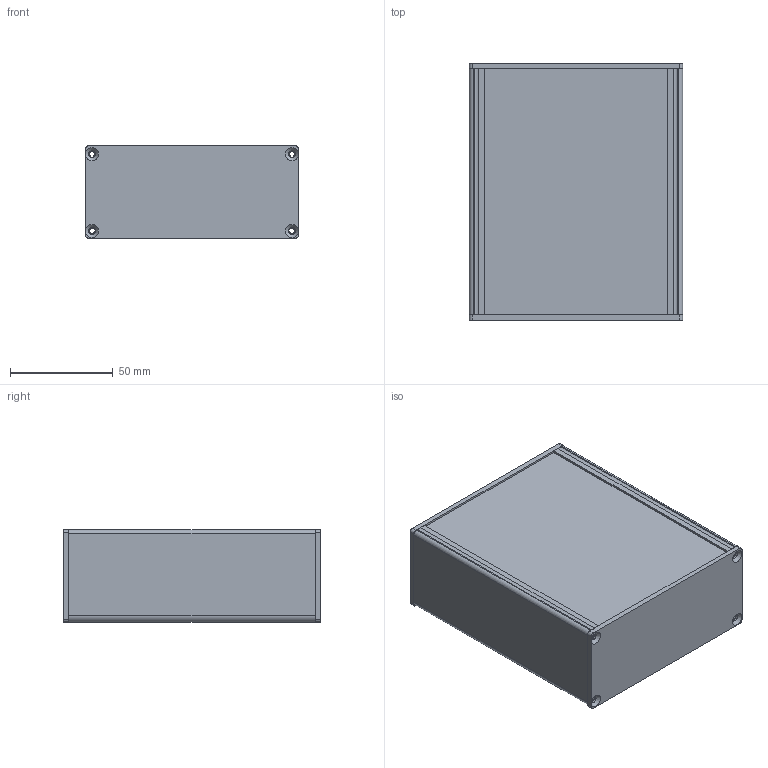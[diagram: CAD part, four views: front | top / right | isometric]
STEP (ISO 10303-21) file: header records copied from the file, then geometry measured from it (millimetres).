
FILE_DESCRIPTION (( 'STEP AP214' ), '1' );
FILE_NAME ('SP45_Zusammenbau.STEP', '2018-03-07T08:07:58', ( '' ), ( '' ), 'SwSTEP 2.0', 'SolidWorks 2017', '' );
FILE_SCHEMA (( 'AUTOMOTIVE_DESIGN' ));
Length unit declared in the file: millimetre
Products named in the file (6): eupac45-frontteil; EUKAP45-Profil; SP45_Zusammenbau
Assembly tree (3 placements, depth 2):
  eupac45-frontteil
  EUKAP45-Profil
  SP45_Zusammenbau
    EUKAP45-Profil
    eupac45-frontteil  x2
  eupac45-frontteil
Bounding box: 104 x 125 x 45.05 mm (x, y, z)
Volume: 119110.3 mm3; surface area: 102089.6 mm2
Topology: 4 solids, 4 shells, 132 faces, 364 edges, 240 vertices
Faces by surface type: plane 98, cylinder 26, cone 8
Full cylindrical faces by diameter (mm): 3.2 x8
Entity records: 3772 total; most frequent: CARTESIAN_POINT 645, ORIENTED_EDGE 624, DIRECTION 594, EDGE_CURVE 312, VECTOR 272, LINE 272, VERTEX_POINT 212, AXIS2_PLACEMENT_3D 161
